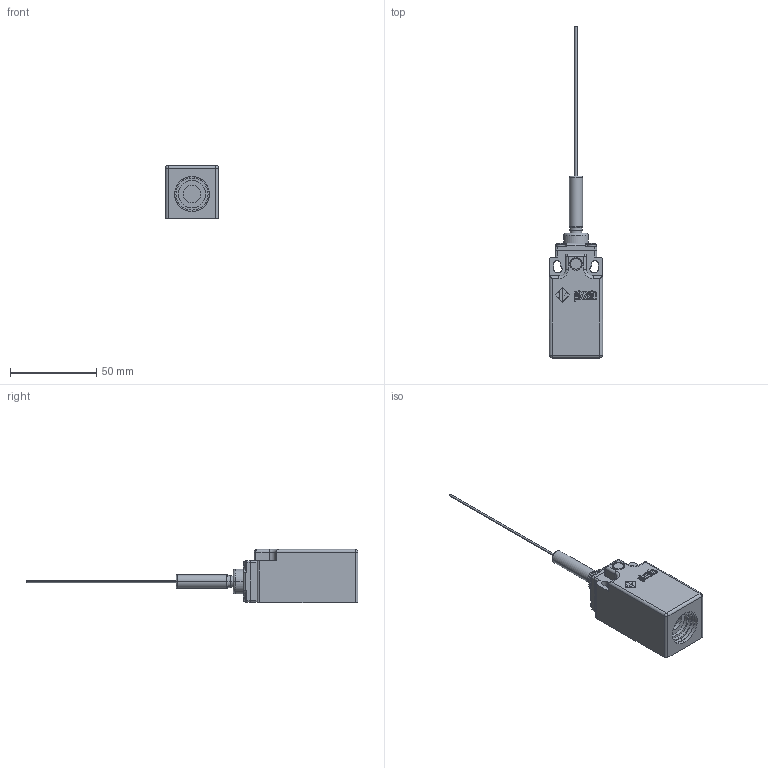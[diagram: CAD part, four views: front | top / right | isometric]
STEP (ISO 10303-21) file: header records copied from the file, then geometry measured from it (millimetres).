
FILE_DESCRIPTION (( 'STEP AP203' ), '1' );
FILE_NAME ('ZF_STEP_FR_x21_A10.step', '2010-02-26T18:59:25', ( 'fabio' ), ( '' ), 'SwSTEP 2.0', 'SolidWorks 2009', '' );
FILE_SCHEMA (( 'CONFIG_CONTROL_DESIGN' ));
Length unit declared in the file: millimetre
Products named in the file (3): ZF_STEP_FR_x21_A10; Pizzato_Custodia_FR; ZF_STEP_VF_TE21_A10
Assembly tree (2 placements, depth 2):
  ZF_STEP_FR_x21_A10
    Pizzato_Custodia_FR
    ZF_STEP_VF_TE21_A10
Bounding box: 30.8 x 192.5 x 30.8 mm (x, y, z)
Volume: 57313.3 mm3; surface area: 14551.8 mm2
Topology: 2 solids, 2 shells, 434 faces, 1123 edges, 736 vertices
Faces by surface type: plane 247, cylinder 98, bspline 71, sphere 10, torus 8
Entity records: 19122 total; most frequent: CARTESIAN_POINT 8519, ORIENTED_EDGE 2238, DIRECTION 1919, EDGE_CURVE 1119, VECTOR 767, LINE 767, VERTEX_POINT 736, AXIS2_PLACEMENT_3D 576
